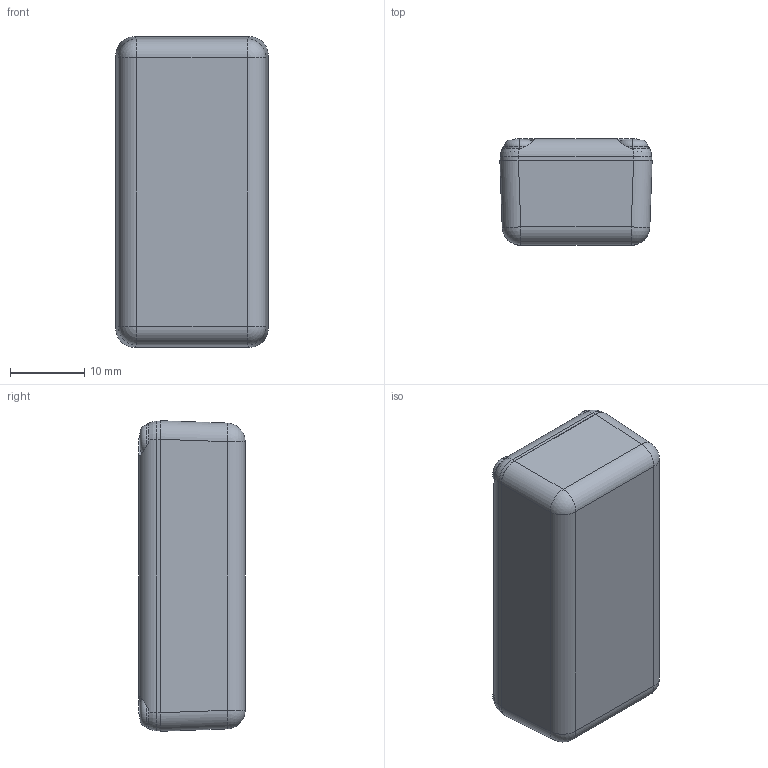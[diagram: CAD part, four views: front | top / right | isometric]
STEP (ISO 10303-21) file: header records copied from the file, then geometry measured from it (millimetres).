
FILE_DESCRIPTION (( 'STEP AP214' ), '1' );
FILE_NAME ('BMC 204L.STEP', '2021-03-29T12:14:35', ( '' ), ( '' ), 'SwSTEP 2.0', 'SolidWorks 2016', '' );
FILE_SCHEMA (( 'AUTOMOTIVE_DESIGN' ));
Length unit declared in the file: millimetre
Products named in the file (4): BMC 204L Top; BMC 204L Bottom; BMC 204L; BMC Screw
Assembly tree (6 placements, depth 2):
  BMC 204L
    BMC 204L Bottom
    BMC 204L Top
    BMC Screw  x4
Bounding box: 20.5 x 14.3 x 41.8 mm (x, y, z)
Volume: 4670.1 mm3; surface area: 6944.2 mm2
Topology: 6 solids, 6 shells, 918 faces, 2434 edges, 1610 vertices
Faces by surface type: plane 489, bspline 317, cylinder 66, cone 30, sphere 8, torus 8
Entity records: 39980 total; most frequent: CARTESIAN_POINT 21809, ORIENTED_EDGE 4296, DIRECTION 2626, EDGE_CURVE 2148, VERTEX_POINT 1424, LINE 1336, VECTOR 1336, EDGE_LOOP 892
